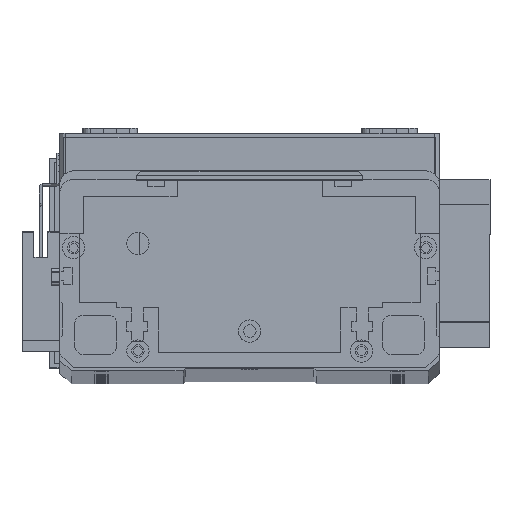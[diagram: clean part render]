
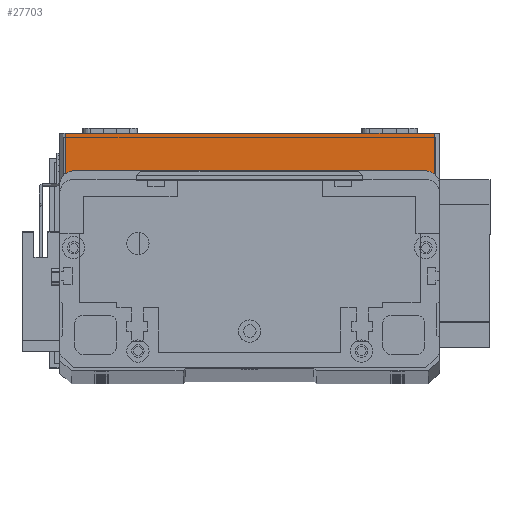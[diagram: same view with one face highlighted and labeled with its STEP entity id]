
A CAD part, top view. The second image highlights one B-rep face of the part: STEP entity #27703.
In plain terms, the highlighted planar face has unit normal (0, 0, 1) as drawn and (0, -1, 0) by its records, which use the part's own axes.
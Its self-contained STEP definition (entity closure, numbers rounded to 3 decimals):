
#381 = LINE ( 'NONE', #19933, #18618 ) ;
#1230 = DIRECTION ( 'NONE',  ( 0., 1., 0. ) ) ;
#2203 = VERTEX_POINT ( 'NONE', #5680 ) ;
#5675 = CARTESIAN_POINT ( 'NONE',  ( 134., 0., 0. ) ) ;
#5680 = CARTESIAN_POINT ( 'NONE',  ( 2., 0., 0. ) ) ;
#5825 = VECTOR ( 'NONE', #22659, 1000. ) ;
#5957 = VERTEX_POINT ( 'NONE', #5675 ) ;
#6936 = LINE ( 'NONE', #12660, #24361 ) ;
#6943 = EDGE_CURVE ( 'NONE', #19193, #14687, #29012, .T. ) ;
#7221 = EDGE_CURVE ( 'NONE', #2203, #5957, #381, .T. ) ;
#8104 = ORIENTED_EDGE ( 'NONE', *, *, #21180, .T. ) ;
#8460 = CARTESIAN_POINT ( 'NONE',  ( 134., 0., 19.5 ) ) ;
#12660 = CARTESIAN_POINT ( 'NONE',  ( 2., 0., 19.5 ) ) ;
#13015 = PLANE ( 'NONE',  #22934 ) ;
#13216 = ORIENTED_EDGE ( 'NONE', *, *, #7221, .T. ) ;
#14687 = VERTEX_POINT ( 'NONE', #15194 ) ;
#14924 = FACE_OUTER_BOUND ( 'NONE', #18827, .T. ) ;
#15194 = CARTESIAN_POINT ( 'NONE',  ( 134., 0., 19.5 ) ) ;
#15491 = CARTESIAN_POINT ( 'NONE',  ( 0., 0., 19.5 ) ) ;
#17818 = ORIENTED_EDGE ( 'NONE', *, *, #6943, .F. ) ;
#17871 = DIRECTION ( 'NONE',  ( 0., 0., 1. ) ) ;
#18618 = VECTOR ( 'NONE', #22319, 1000. ) ;
#18798 = DIRECTION ( 'NONE',  ( 1., 0., 0. ) ) ;
#18827 = EDGE_LOOP ( 'NONE', ( #17818, #24476, #13216, #8104 ) ) ;
#19193 = VERTEX_POINT ( 'NONE', #27077 ) ;
#19933 = CARTESIAN_POINT ( 'NONE',  ( 0., 0., 0. ) ) ;
#21180 = EDGE_CURVE ( 'NONE', #5957, #14687, #29570, .T. ) ;
#21224 = CARTESIAN_POINT ( 'NONE',  ( 0., 0., 19.5 ) ) ;
#22319 = DIRECTION ( 'NONE',  ( 1., 0., 0. ) ) ;
#22659 = DIRECTION ( 'NONE',  ( 0., 0., 1. ) ) ;
#22934 = AXIS2_PLACEMENT_3D ( 'NONE', #15491, #1230, #17871 ) ;
#24051 = EDGE_CURVE ( 'NONE', #19193, #2203, #6936, .T. ) ;
#24361 = VECTOR ( 'NONE', #26856, 1000. ) ;
#24476 = ORIENTED_EDGE ( 'NONE', *, *, #24051, .T. ) ;
#26801 = VECTOR ( 'NONE', #18798, 1000. ) ;
#26856 = DIRECTION ( 'NONE',  ( 0., 0., -1. ) ) ;
#27077 = CARTESIAN_POINT ( 'NONE',  ( 2., 0., 19.5 ) ) ;
#27703 = ADVANCED_FACE ( 'NONE', ( #14924 ), #13015, .F. ) ;
#29012 = LINE ( 'NONE', #21224, #26801 ) ;
#29570 = LINE ( 'NONE', #8460, #5825 ) ;
